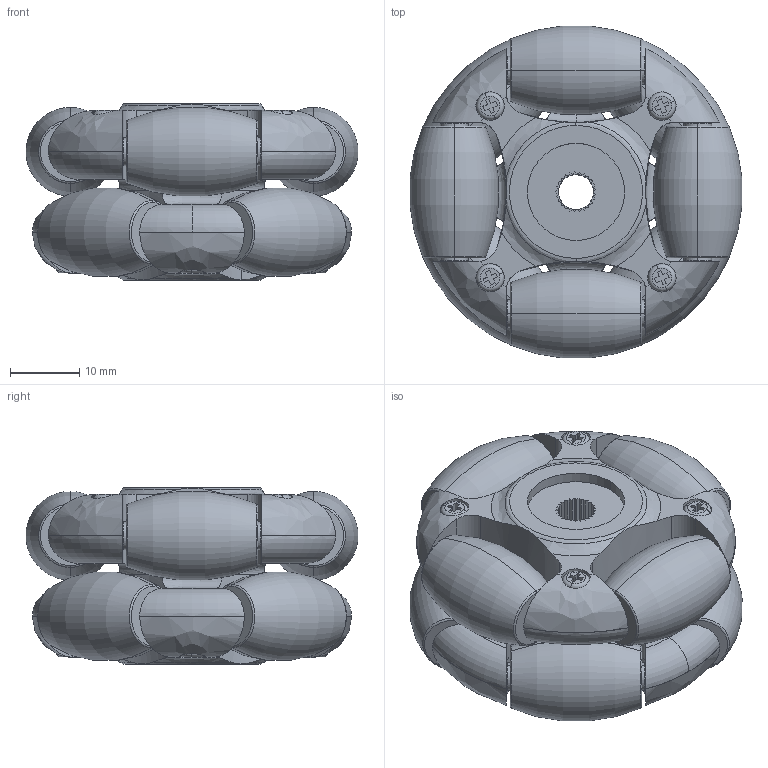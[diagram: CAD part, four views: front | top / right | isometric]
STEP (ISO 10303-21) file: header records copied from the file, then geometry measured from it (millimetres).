
FILE_DESCRIPTION (( 'STEP AP214' ), '1' );
FILE_NAME ('MO104.STEP', '2018-12-14T01:09:51', ( 'Windows 蚚誧' ), ( '' ), 'SwSTEP 2.0', 'SolidWorks 2018', '' );
FILE_SCHEMA (( 'AUTOMOTIVE_DESIGN' ));
Length unit declared in the file: millimetre
Products named in the file (6): 俋晚えB-2; 笢潔蟀諉璃B; 苤幗謫; 嫖粣; MO104; 圉埴芛坋趼蹟佪(M2.5X8)
Assembly tree (27 placements, depth 2):
  MO104
    圉埴芛坋趼蹟佪(M2.5X8)  x8
    嫖粣  x8
    苤幗謫  x8
    笢潔蟀諉璃B
    俋晚えB-2  x2
Bounding box: 47.85 x 47.85 x 25.5 mm (x, y, z)
Volume: 27921.6 mm3; surface area: 24675.9 mm2
Topology: 27 solids, 27 shells, 1159 faces, 2930 edges, 1924 vertices
Faces by surface type: cylinder 488, plane 471, cone 98, torus 82, bspline 20
Entity records: 19009 total; most frequent: CARTESIAN_POINT 4452, DIRECTION 3155, ORIENTED_EDGE 2944, EDGE_CURVE 1472, AXIS2_PLACEMENT_3D 1223, VERTEX_POINT 977, LINE 709, VECTOR 709
